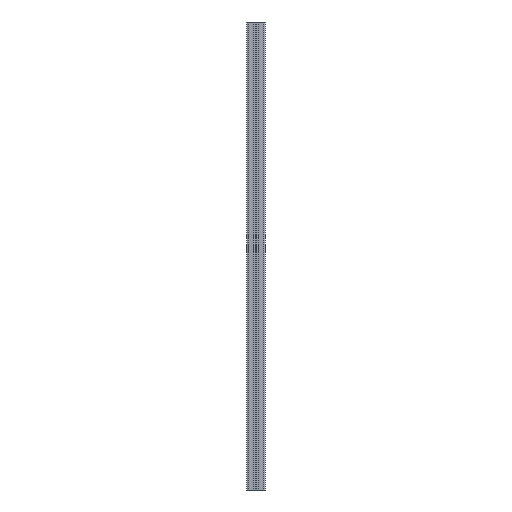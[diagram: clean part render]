
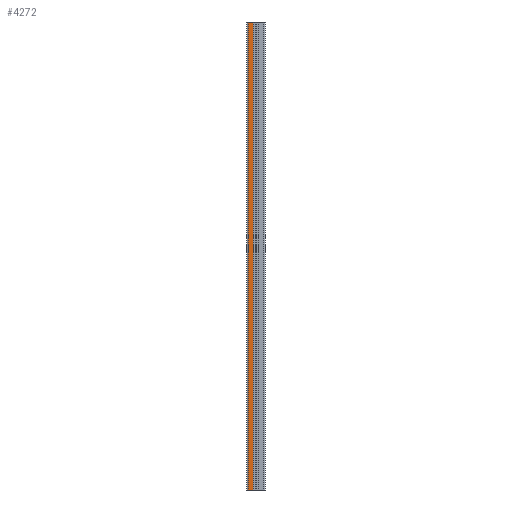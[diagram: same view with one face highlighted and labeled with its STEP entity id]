
A CAD part, front view. The second image highlights one B-rep face of the part: STEP entity #4272.
In plain terms, the highlighted planar face has unit normal (0, -1, 0).
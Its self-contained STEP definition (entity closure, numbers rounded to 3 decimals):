
#174 = AXIS2_PLACEMENT_3D ( 'NONE', #7764, #763, #5665 ) ;
#432 = VERTEX_POINT ( 'NONE', #1049 ) ;
#763 = DIRECTION ( 'NONE',  ( 0., -1., 0. ) ) ;
#987 = LINE ( 'NONE', #8960, #4486 ) ;
#1049 = CARTESIAN_POINT ( 'NONE',  ( 2.992, 0., 1000. ) ) ;
#1180 = EDGE_CURVE ( 'NONE', #6942, #1529, #6819, .T. ) ;
#1529 = VERTEX_POINT ( 'NONE', #2638 ) ;
#1744 = ORIENTED_EDGE ( 'NONE', *, *, #1180, .F. ) ;
#1818 = ORIENTED_EDGE ( 'NONE', *, *, #6248, .T. ) ;
#2369 = CARTESIAN_POINT ( 'NONE',  ( 2.992, 0., 1000. ) ) ;
#2549 = FACE_OUTER_BOUND ( 'NONE', #5149, .T. ) ;
#2638 = CARTESIAN_POINT ( 'NONE',  ( 2.992, 0., 0. ) ) ;
#2731 = DIRECTION ( 'NONE',  ( -1., 0., 0. ) ) ;
#3069 = VECTOR ( 'NONE', #6400, 1000. ) ;
#3342 = ORIENTED_EDGE ( 'NONE', *, *, #5040, .F. ) ;
#3396 = VECTOR ( 'NONE', #2731, 1000. ) ;
#3546 = LINE ( 'NONE', #2369, #8735 ) ;
#3751 = VERTEX_POINT ( 'NONE', #5171 ) ;
#4213 = PLANE ( 'NONE',  #174 ) ;
#4272 = ADVANCED_FACE ( 'NONE', ( #2549 ), #4213, .T. ) ;
#4479 = DIRECTION ( 'NONE',  ( 0., 0., -1. ) ) ;
#4486 = VECTOR ( 'NONE', #6113, 1000. ) ;
#4996 = CARTESIAN_POINT ( 'NONE',  ( 0., 0., 0. ) ) ;
#5040 = EDGE_CURVE ( 'NONE', #3751, #6942, #987, .T. ) ;
#5149 = EDGE_LOOP ( 'NONE', ( #1744, #3342, #6095, #1818 ) ) ;
#5154 = EDGE_CURVE ( 'NONE', #3751, #432, #5488, .T. ) ;
#5171 = CARTESIAN_POINT ( 'NONE',  ( 13.9, 0., 1000. ) ) ;
#5488 = LINE ( 'NONE', #6268, #3396 ) ;
#5665 = DIRECTION ( 'NONE',  ( 1., 0., 0. ) ) ;
#6095 = ORIENTED_EDGE ( 'NONE', *, *, #5154, .T. ) ;
#6113 = DIRECTION ( 'NONE',  ( 0., 0., -1. ) ) ;
#6248 = EDGE_CURVE ( 'NONE', #432, #1529, #3546, .T. ) ;
#6268 = CARTESIAN_POINT ( 'NONE',  ( 0., 0., 1000. ) ) ;
#6400 = DIRECTION ( 'NONE',  ( -1., 0., 0. ) ) ;
#6819 = LINE ( 'NONE', #4996, #3069 ) ;
#6942 = VERTEX_POINT ( 'NONE', #7800 ) ;
#7764 = CARTESIAN_POINT ( 'NONE',  ( 0., 0., 1000. ) ) ;
#7800 = CARTESIAN_POINT ( 'NONE',  ( 13.9, 0., 0. ) ) ;
#8735 = VECTOR ( 'NONE', #4479, 1000. ) ;
#8960 = CARTESIAN_POINT ( 'NONE',  ( 13.9, 0., 1000. ) ) ;
